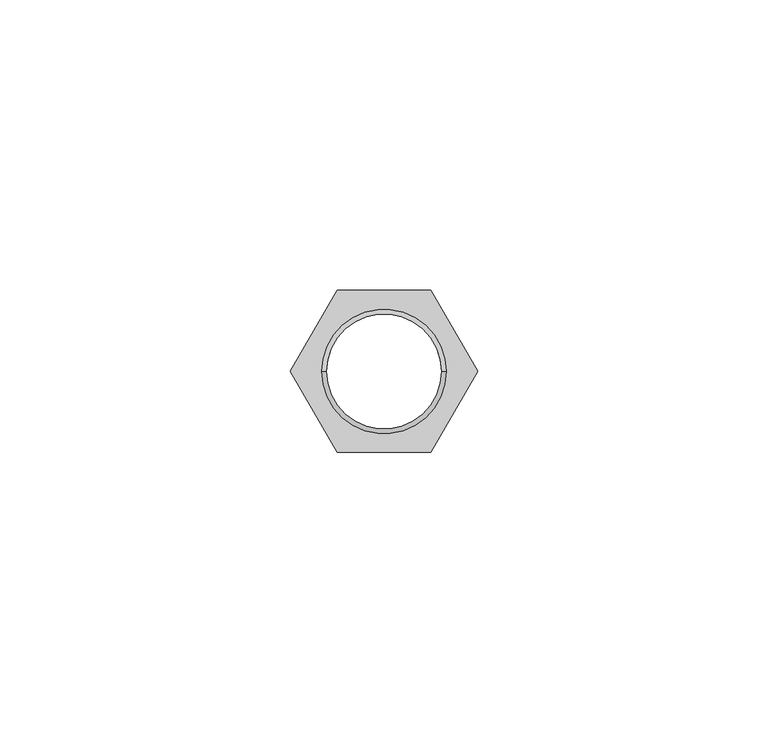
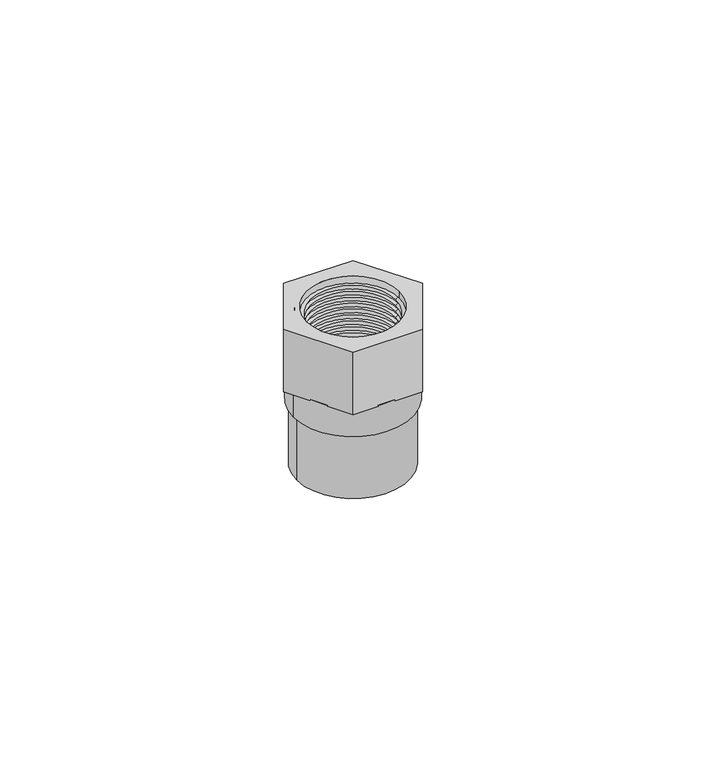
"""IFC4 building model written with IfcOpenShell, lengths in millimetres: valve geometry, Adaptador Hembra_Lubrizol_CPVC_FlowGuard_MX 19mm : Adaptador Hembra_Lubrizol_CPVC_FlowGuard_MX 19mm."""

from ifc_helpers import new_model, si_unit, point, frame, origin, origin_with_axes, origin_2d, place, context, project, spatial, polyline, circle_curve, trimmed, segment, composite_curve, outline, extrude, source, transform, mapped, element, save
from ifc_brep_helpers import plane_surface, cylinder_surface, revolved_surface, advanced_brep


def valve_c4f6bb43(model_context):
    return source(origin(), model_context, "Body", "SolidModel", [
        extrude(outline(composite_curve([segment(trimmed(circle_curve(origin_2d(), 13.7606848), [point((-13.7606848, 0.0))], [point((13.7606848, 0.0))], False, "CARTESIAN"), True, "CONTINUOUS"), segment(trimmed(circle_curve(origin_2d(), 13.7606848), [point((13.7606848, 0.0))], [point((-13.7606848, 0.0))], False, "CARTESIAN"), True, "CONTINUOUS")], self_intersect=False), holes=[composite_curve([segment(trimmed(circle_curve(origin_2d(), 11.1), [point((-11.1, 0.0))], [point((11.1, 0.0))], True, "CARTESIAN"), True, "CONTINUOUS"), segment(trimmed(circle_curve(origin_2d(), 11.1), [point((11.1, 0.0))], [point((-11.1, 0.0))], True, "CARTESIAN"), True, "CONTINUOUS")], self_intersect=False)]), frame((0.0, 0.0, 15.7086101), z_axis=(0.0, 0.0, 1.0), x_axis=(1.0, 0.0, 0.0)), (0.0, 0.0, 1.0), 7.0424292),
        extrude(outline(polyline([(-8.0465961, -13.9371133), (-16.0931922, 0.0), (-8.0465961, 13.9371133), (8.0465961, 13.9371133), (16.0931922, 0.0), (8.0465961, -13.9371133), (-8.0465961, -13.9371133)]), holes=[composite_curve([segment(trimmed(circle_curve(origin_2d(), 10.7), [point((-10.7, 0.0))], [point((10.7, 0.0))], True, "CARTESIAN"), True, "CONTINUOUS"), segment(trimmed(circle_curve(origin_2d(), 10.7), [point((10.7, 0.0))], [point((-10.7, 0.0))], True, "CARTESIAN"), True, "CONTINUOUS")], self_intersect=False)]), frame((0.0, 0.0, 22.7510392), z_axis=(0.0, 0.0, 1.0), x_axis=(1.0, 0.0, 0.0)), (0.0, 0.0, 1.0), 15.2489608),
        advanced_brep(
        [(11.8312977, 0.0, 38.0), (-11.8312977, 0.0, 38.0), (-10.9804934, 0.0, 38.0), (10.9804934, 0.0, 38.0), (11.8312977, 0.0, 24.0), (-11.8312977, 0.0, 24.0), (10.8841551, 0.0, 24.0), (-10.8841551, 0.0, 24.0), (9.9167808, 0.0, 24.6773628), (-9.9167808, 0.0, 24.6773628), (10.951005, 0.0, 25.4015344), (-10.951005, 0.0, 25.4015344), (9.9167808, 0.0, 26.125706), (-9.9167808, 0.0, 26.125706), (10.951005, 0.0, 26.8498777), (-10.951005, 0.0, 26.8498777), (9.9167808, 0.0, 27.5740493), (-9.9167808, 0.0, 27.5740493), (10.951005, 0.0, 28.2982209), (-10.951005, 0.0, 28.2982209), (9.9167808, 0.0, 29.0223925), (-9.9167808, 0.0, 29.0223925), (10.951005, 0.0, 29.7465641), (-10.951005, 0.0, 29.7465641), (9.9167808, 0.0, 30.4707358), (-9.9167808, 0.0, 30.4707358), (10.951005, 0.0, 31.1949074), (-10.951005, 0.0, 31.1949074), (9.9167808, 0.0, 31.919079), (-9.9167808, 0.0, 31.919079), (10.951005, 0.0, 32.6432506), (-10.951005, 0.0, 32.6432506), (9.9167808, 0.0, 33.3674223), (-9.9167808, 0.0, 33.3674223), (10.951005, 0.0, 34.0915939), (-10.951005, 0.0, 34.0915939), (9.9167808, 0.0, 34.8157655), (-9.9167808, 0.0, 34.8157655), (10.951005, 0.0, 35.5399371), (-10.951005, 0.0, 35.5399371), (9.9167808, 0.0, 36.2641088), (-9.9167808, 0.0, 36.2641088), (10.9804934, 0.0, 37.0089284), (-10.9804934, 0.0, 37.0089284)],
        [
            (0, 1, circle_curve(frame((0.0, 0.0, 38.0), z_axis=(0.0, 0.0, 1.0), x_axis=(-1.0, 0.0, 0.0)), 11.8312977)),
            (1, 2),
            (2, 3, circle_curve(frame((0.0, 0.0, 38.0), z_axis=(0.0, 0.0, -1.0), x_axis=(-1.0, 0.0, 0.0)), 10.9804934)),
            (3, 0),
            (1, 0, circle_curve(frame((0.0, 0.0, 38.0), z_axis=(0.0, 0.0, 1.0), x_axis=(-1.0, 0.0, 0.0)), 11.8312977)),
            (3, 2, circle_curve(frame((0.0, 0.0, 38.0), z_axis=(0.0, 0.0, -1.0), x_axis=(-1.0, 0.0, 0.0)), 10.9804934)),
            (4, 5, circle_curve(frame((0.0, 0.0, 24.0), z_axis=(0.0, 0.0, 1.0), x_axis=(-1.0, 0.0, 0.0)), 11.8312977)),
            (5, 1),
            (0, 4),
            (5, 4, circle_curve(frame((0.0, 0.0, 24.0), z_axis=(0.0, 0.0, 1.0), x_axis=(-1.0, 0.0, 0.0)), 11.8312977)),
            (6, 7, circle_curve(frame((0.0, 0.0, 24.0), z_axis=(0.0, 0.0, 1.0), x_axis=(-1.0, 0.0, 0.0)), 10.8841551)),
            (7, 5),
            (4, 6),
            (7, 6, circle_curve(frame((0.0, 0.0, 24.0), z_axis=(0.0, 0.0, 1.0), x_axis=(-1.0, 0.0, 0.0)), 10.8841551)),
            (8, 9, circle_curve(frame((0.0, 0.0, 24.6773628), z_axis=(0.0, 0.0, 1.0), x_axis=(-1.0, 0.0, 0.0)), 9.9167808)),
            (9, 7),
            (6, 8),
            (9, 8, circle_curve(frame((0.0, 0.0, 24.6773628), z_axis=(0.0, 0.0, 1.0), x_axis=(-1.0, 0.0, 0.0)), 9.9167808)),
            (10, 11, circle_curve(frame((0.0, 0.0, 25.4015344), z_axis=(0.0, 0.0, 1.0), x_axis=(-1.0, 0.0, 0.0)), 10.951005)),
            (11, 9),
            (8, 10),
            (11, 10, circle_curve(frame((0.0, 0.0, 25.4015344), z_axis=(0.0, 0.0, 1.0), x_axis=(-1.0, 0.0, 0.0)), 10.951005)),
            (12, 13, circle_curve(frame((0.0, 0.0, 26.125706), z_axis=(0.0, 0.0, 1.0), x_axis=(-1.0, 0.0, 0.0)), 9.9167808)),
            (13, 11),
            (10, 12),
            (13, 12, circle_curve(frame((0.0, 0.0, 26.125706), z_axis=(0.0, 0.0, 1.0), x_axis=(-1.0, 0.0, 0.0)), 9.9167808)),
            (14, 15, circle_curve(frame((0.0, 0.0, 26.8498777), z_axis=(0.0, 0.0, 1.0), x_axis=(-1.0, 0.0, 0.0)), 10.951005)),
            (15, 13),
            (12, 14),
            (15, 14, circle_curve(frame((0.0, 0.0, 26.8498777), z_axis=(0.0, 0.0, 1.0), x_axis=(-1.0, 0.0, 0.0)), 10.951005)),
            (16, 17, circle_curve(frame((0.0, 0.0, 27.5740493), z_axis=(0.0, 0.0, 1.0), x_axis=(-1.0, 0.0, 0.0)), 9.9167808)),
            (17, 15),
            (14, 16),
            (17, 16, circle_curve(frame((0.0, 0.0, 27.5740493), z_axis=(0.0, 0.0, 1.0), x_axis=(-1.0, 0.0, 0.0)), 9.9167808)),
            (18, 19, circle_curve(frame((0.0, 0.0, 28.2982209), z_axis=(0.0, 0.0, 1.0), x_axis=(-1.0, 0.0, 0.0)), 10.951005)),
            (19, 17),
            (16, 18),
            (19, 18, circle_curve(frame((0.0, 0.0, 28.2982209), z_axis=(0.0, 0.0, 1.0), x_axis=(-1.0, 0.0, 0.0)), 10.951005)),
            (20, 21, circle_curve(frame((0.0, 0.0, 29.0223925), z_axis=(0.0, 0.0, 1.0), x_axis=(-1.0, 0.0, 0.0)), 9.9167808)),
            (21, 19),
            (18, 20),
            (21, 20, circle_curve(frame((0.0, 0.0, 29.0223925), z_axis=(0.0, 0.0, 1.0), x_axis=(-1.0, 0.0, 0.0)), 9.9167808)),
            (22, 23, circle_curve(frame((0.0, 0.0, 29.7465641), z_axis=(0.0, 0.0, 1.0), x_axis=(-1.0, 0.0, 0.0)), 10.951005)),
            (23, 21),
            (20, 22),
            (23, 22, circle_curve(frame((0.0, 0.0, 29.7465641), z_axis=(0.0, 0.0, 1.0), x_axis=(-1.0, 0.0, 0.0)), 10.951005)),
            (24, 25, circle_curve(frame((0.0, 0.0, 30.4707358), z_axis=(0.0, 0.0, 1.0), x_axis=(-1.0, 0.0, 0.0)), 9.9167808)),
            (25, 23),
            (22, 24),
            (25, 24, circle_curve(frame((0.0, 0.0, 30.4707358), z_axis=(0.0, 0.0, 1.0), x_axis=(-1.0, 0.0, 0.0)), 9.9167808)),
            (26, 27, circle_curve(frame((0.0, 0.0, 31.1949074), z_axis=(0.0, 0.0, 1.0), x_axis=(-1.0, 0.0, 0.0)), 10.951005)),
            (27, 25),
            (24, 26),
            (27, 26, circle_curve(frame((0.0, 0.0, 31.1949074), z_axis=(0.0, 0.0, 1.0), x_axis=(-1.0, 0.0, 0.0)), 10.951005)),
            (28, 29, circle_curve(frame((0.0, 0.0, 31.919079), z_axis=(0.0, 0.0, 1.0), x_axis=(-1.0, 0.0, 0.0)), 9.9167808)),
            (29, 27),
            (26, 28),
            (29, 28, circle_curve(frame((0.0, 0.0, 31.919079), z_axis=(0.0, 0.0, 1.0), x_axis=(-1.0, 0.0, 0.0)), 9.9167808)),
            (30, 31, circle_curve(frame((0.0, 0.0, 32.6432506), z_axis=(0.0, 0.0, 1.0), x_axis=(-1.0, 0.0, 0.0)), 10.951005)),
            (31, 29),
            (28, 30),
            (31, 30, circle_curve(frame((0.0, 0.0, 32.6432506), z_axis=(0.0, 0.0, 1.0), x_axis=(-1.0, 0.0, 0.0)), 10.951005)),
            (32, 33, circle_curve(frame((0.0, 0.0, 33.3674223), z_axis=(0.0, 0.0, 1.0), x_axis=(-1.0, 0.0, 0.0)), 9.9167808)),
            (33, 31),
            (30, 32),
            (33, 32, circle_curve(frame((0.0, 0.0, 33.3674223), z_axis=(0.0, 0.0, 1.0), x_axis=(-1.0, 0.0, 0.0)), 9.9167808)),
            (34, 35, circle_curve(frame((0.0, 0.0, 34.0915939), z_axis=(0.0, 0.0, 1.0), x_axis=(-1.0, 0.0, 0.0)), 10.951005)),
            (35, 33),
            (32, 34),
            (35, 34, circle_curve(frame((0.0, 0.0, 34.0915939), z_axis=(0.0, 0.0, 1.0), x_axis=(-1.0, 0.0, 0.0)), 10.951005)),
            (36, 37, circle_curve(frame((0.0, 0.0, 34.8157655), z_axis=(0.0, 0.0, 1.0), x_axis=(-1.0, 0.0, 0.0)), 9.9167808)),
            (37, 35),
            (34, 36),
            (37, 36, circle_curve(frame((0.0, 0.0, 34.8157655), z_axis=(0.0, 0.0, 1.0), x_axis=(-1.0, 0.0, 0.0)), 9.9167808)),
            (38, 39, circle_curve(frame((0.0, 0.0, 35.5399371), z_axis=(0.0, 0.0, 1.0), x_axis=(-1.0, 0.0, 0.0)), 10.951005)),
            (39, 37),
            (36, 38),
            (39, 38, circle_curve(frame((0.0, 0.0, 35.5399371), z_axis=(0.0, 0.0, 1.0), x_axis=(-1.0, 0.0, 0.0)), 10.951005)),
            (40, 41, circle_curve(frame((0.0, 0.0, 36.2641088), z_axis=(0.0, 0.0, 1.0), x_axis=(-1.0, 0.0, 0.0)), 9.9167808)),
            (41, 39),
            (38, 40),
            (41, 40, circle_curve(frame((0.0, 0.0, 36.2641088), z_axis=(0.0, 0.0, 1.0), x_axis=(-1.0, 0.0, 0.0)), 9.9167808)),
            (42, 43, circle_curve(frame((0.0, 0.0, 37.0089284), z_axis=(0.0, 0.0, 1.0), x_axis=(-1.0, 0.0, 0.0)), 10.9804934)),
            (43, 41),
            (40, 42),
            (43, 42, circle_curve(frame((0.0, 0.0, 37.0089284), z_axis=(0.0, 0.0, 1.0), x_axis=(-1.0, 0.0, 0.0)), 10.9804934)),
            (2, 43),
            (42, 3),
        ],
        [
            plane_surface(frame((0.0, 0.0, 38.0), z_axis=(0.0, 0.0, 1.0), x_axis=(-1.0, 0.0, 0.0))),
            cylinder_surface(frame((0.0, 0.0, 32.7589883), z_axis=(0.0, 0.0, -1.0), x_axis=(-1.0, 0.0, 0.0)), 11.8312977),
            plane_surface(frame((0.0, 0.0, 24.0), z_axis=(0.0, 0.0, -1.0), x_axis=(-1.0, 0.0, 0.0))),
            revolved_surface(polyline([(-10.8841551, 0.0, 24.0), (-9.9167808, 0.0, 24.6773628)]), (0.0, 0.0, 32.7589883), (0.0, 0.0, -1.0)),
            revolved_surface(polyline([(-9.9167808, 0.0, 24.6773628), (-10.951005, 0.0, 25.4015344)]), (0.0, 0.0, 32.7589883), (0.0, 0.0, -1.0)),
            revolved_surface(polyline([(-10.951005, 0.0, 25.4015344), (-9.9167808, 0.0, 26.125706)]), (0.0, 0.0, 32.7589883), (0.0, 0.0, -1.0)),
            revolved_surface(polyline([(-9.9167808, 0.0, 26.125706), (-10.951005, 0.0, 26.8498777)]), (0.0, 0.0, 32.7589883), (0.0, 0.0, -1.0)),
            revolved_surface(polyline([(-10.951005, 0.0, 26.8498777), (-9.9167808, 0.0, 27.5740493)]), (0.0, 0.0, 32.7589883), (0.0, 0.0, -1.0)),
            revolved_surface(polyline([(-9.9167808, 0.0, 27.5740493), (-10.951005, 0.0, 28.2982209)]), (0.0, 0.0, 32.7589883), (0.0, 0.0, -1.0)),
            revolved_surface(polyline([(-10.951005, 0.0, 28.2982209), (-9.9167808, 0.0, 29.0223925)]), (0.0, 0.0, 32.7589883), (0.0, 0.0, -1.0)),
            revolved_surface(polyline([(-9.9167808, 0.0, 29.0223925), (-10.951005, 0.0, 29.7465641)]), (0.0, 0.0, 32.7589883), (0.0, 0.0, -1.0)),
            revolved_surface(polyline([(-10.951005, 0.0, 29.7465641), (-9.9167808, 0.0, 30.4707358)]), (0.0, 0.0, 32.7589883), (0.0, 0.0, -1.0)),
            revolved_surface(polyline([(-9.9167808, 0.0, 30.4707358), (-10.951005, 0.0, 31.1949074)]), (0.0, 0.0, 32.7589883), (0.0, 0.0, -1.0)),
            revolved_surface(polyline([(-10.951005, 0.0, 31.1949074), (-9.9167808, 0.0, 31.919079)]), (0.0, 0.0, 32.7589883), (0.0, 0.0, -1.0)),
            revolved_surface(polyline([(-9.9167808, 0.0, 31.919079), (-10.951005, 0.0, 32.6432506)]), (0.0, 0.0, 32.7589883), (0.0, 0.0, -1.0)),
            revolved_surface(polyline([(-10.951005, 0.0, 32.6432506), (-9.9167808, 0.0, 33.3674223)]), (0.0, 0.0, 32.7589883), (0.0, 0.0, -1.0)),
            revolved_surface(polyline([(-9.9167808, 0.0, 33.3674223), (-10.951005, 0.0, 34.0915939)]), (0.0, 0.0, 32.7589883), (0.0, 0.0, -1.0)),
            revolved_surface(polyline([(-10.951005, 0.0, 34.0915939), (-9.9167808, 0.0, 34.8157655)]), (0.0, 0.0, 32.7589883), (0.0, 0.0, -1.0)),
            revolved_surface(polyline([(-9.9167808, 0.0, 34.8157655), (-10.951005, 0.0, 35.5399371)]), (0.0, 0.0, 32.7589883), (0.0, 0.0, -1.0)),
            revolved_surface(polyline([(-10.951005, 0.0, 35.5399371), (-9.9167808, 0.0, 36.2641088)]), (0.0, 0.0, 32.7589883), (0.0, 0.0, -1.0)),
            revolved_surface(polyline([(-9.9167808, 0.0, 36.2641088), (-10.9804934, 0.0, 37.0089284)]), (0.0, 0.0, 32.7589883), (0.0, 0.0, -1.0)),
            revolved_surface(polyline([(-10.9804934, 0.0, 37.0089284), (-10.9804934, 0.0, 38.0)]), (0.0, 0.0, 32.7589883), (0.0, 0.0, -1.0)),
        ],
        [
            (0, [[1, 2, 3, 4]]),
            (0, [[5, -4, 6, -2]]),
            (1, [[7, 8, -1, 9]]),
            (1, [[10, -9, -5, -8]]),
            (2, [[11, 12, -7, 13]]),
            (2, [[14, -13, -10, -12]]),
            (3, [[15, 16, -11, 17]]),
            (3, [[18, -17, -14, -16]]),
            (4, [[19, 20, -15, 21]]),
            (4, [[22, -21, -18, -20]]),
            (5, [[23, 24, -19, 25]]),
            (5, [[26, -25, -22, -24]]),
            (6, [[27, 28, -23, 29]]),
            (6, [[30, -29, -26, -28]]),
            (7, [[31, 32, -27, 33]]),
            (7, [[34, -33, -30, -32]]),
            (8, [[35, 36, -31, 37]]),
            (8, [[38, -37, -34, -36]]),
            (9, [[39, 40, -35, 41]]),
            (9, [[42, -41, -38, -40]]),
            (10, [[43, 44, -39, 45]]),
            (10, [[46, -45, -42, -44]]),
            (11, [[47, 48, -43, 49]]),
            (11, [[50, -49, -46, -48]]),
            (12, [[51, 52, -47, 53]]),
            (12, [[54, -53, -50, -52]]),
            (13, [[55, 56, -51, 57]]),
            (13, [[58, -57, -54, -56]]),
            (14, [[59, 60, -55, 61]]),
            (14, [[62, -61, -58, -60]]),
            (15, [[63, 64, -59, 65]]),
            (15, [[66, -65, -62, -64]]),
            (16, [[67, 68, -63, 69]]),
            (16, [[70, -69, -66, -68]]),
            (17, [[71, 72, -67, 73]]),
            (17, [[74, -73, -70, -72]]),
            (18, [[75, 76, -71, 77]]),
            (18, [[78, -77, -74, -76]]),
            (19, [[79, 80, -75, 81]]),
            (19, [[82, -81, -78, -80]]),
            (20, [[83, 84, -79, 85]]),
            (20, [[86, -85, -82, -84]]),
            (21, [[-3, 87, -83, 88]]),
            (21, [[-6, -88, -86, -87]]),
        ],
    ),
        extrude(outline(composite_curve([segment(trimmed(circle_curve(origin_2d(), 13.0), [point((-13.0, 0.0))], [point((13.0, 0.0))], False, "CARTESIAN"), True, "CONTINUOUS"), segment(trimmed(circle_curve(origin_2d(), 13.0), [point((13.0, 0.0))], [point((-13.0, 0.0))], False, "CARTESIAN"), True, "CONTINUOUS")], self_intersect=False), holes=[composite_curve([segment(trimmed(circle_curve(origin_2d(), 11.1), [point((-11.1, 0.0))], [point((11.1, 0.0))], True, "CARTESIAN"), True, "CONTINUOUS"), segment(trimmed(circle_curve(origin_2d(), 11.1), [point((11.1, 0.0))], [point((-11.1, 0.0))], True, "CARTESIAN"), True, "CONTINUOUS")], self_intersect=False)]), origin_with_axes(), (0.0, 0.0, 1.0), 15.7086101),
    ])


if __name__ == "__main__":
    model = new_model("IFC4")
    model_context = context("Model", 3, world=origin())
    ifc_project = project(units=[si_unit("LENGTHUNIT", "METRE", prefix="MILLI")], contexts=[model_context])
    site = spatial("IfcSite", under=ifc_project)
    building = spatial("IfcBuilding", under=site)
    placement = place(None, origin())
    valve_shape = valve_c4f6bb43(model_context)
    element("IfcValve", 1, ObjectType="Adaptador Hembra_Lubrizol_CPVC_FlowGuard_MX 19mm : Adaptador Hembra_Lubrizol_CPVC_FlowGuard_MX 19mm", at=placement, inside=building, context=model_context, shape_type="MappedRepresentation", body=[
        mapped(valve_shape, transform((0.0, 0.0, 0.0), x_axis=(1.0, 0.0, 0.0), y_axis=(0.0, 1.0, 0.0), z_axis=(0.0, 0.0, 1.0))),
    ])
    save(model, "model.ifc")
